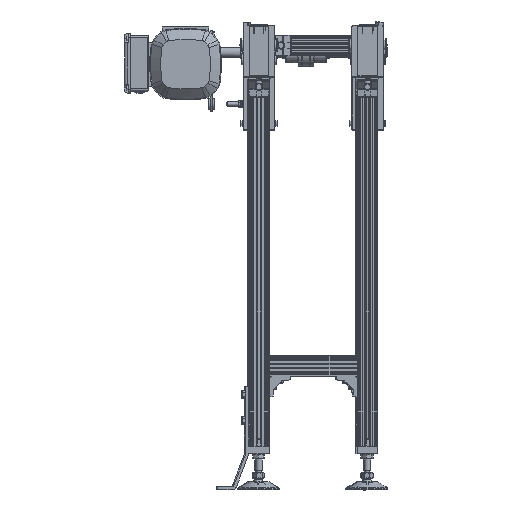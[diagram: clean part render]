
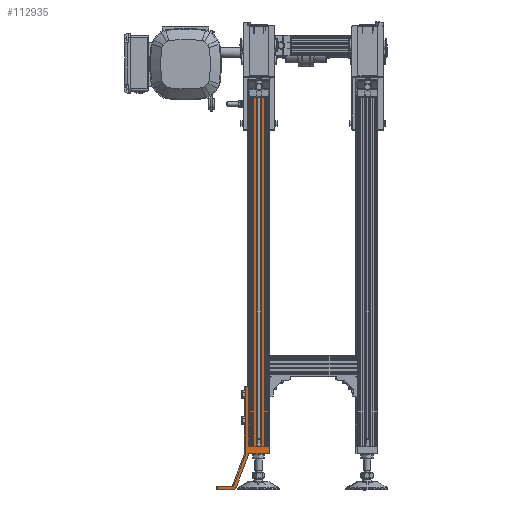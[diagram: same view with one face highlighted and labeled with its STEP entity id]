
A CAD part, left-side view. The second image highlights one B-rep face of the part: STEP entity #112935.
In plain terms, the highlighted planar face has unit normal (-1, 0, 0).
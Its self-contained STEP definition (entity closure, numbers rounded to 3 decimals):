
#5731=CIRCLE('',#120607,12.);
#5732=CIRCLE('',#120608,6.);
#5733=CIRCLE('',#120609,12.);
#5734=CIRCLE('',#120610,12.);
#10172=FACE_OUTER_BOUND('',#16446,.T.);
#16446=EDGE_LOOP('',(#86659,#86660,#86661,#86662,#86663,#86664,#86665,#86666,
#86667,#86668,#86669,#86670,#86671,#86672,#86673,#86674,#86675,#86676,#86677,
#86678,#86679,#86680,#86681,#86682));
#27230=LINE('',#176277,#38702);
#27397=LINE('',#176931,#38869);
#27398=LINE('',#176932,#38870);
#27422=LINE('',#177001,#38894);
#27423=LINE('',#177003,#38895);
#27424=LINE('',#177005,#38896);
#27425=LINE('',#177007,#38897);
#27426=LINE('',#177009,#38898);
#27427=LINE('',#177013,#38899);
#27428=LINE('',#177017,#38900);
#27429=LINE('',#177019,#38901);
#27430=LINE('',#177021,#38902);
#27431=LINE('',#177025,#38903);
#27432=LINE('',#177029,#38904);
#27433=LINE('',#177030,#38905);
#27434=LINE('',#177032,#38906);
#27435=LINE('',#177033,#38907);
#27436=LINE('',#177035,#38908);
#27437=LINE('',#177037,#38909);
#27438=LINE('',#177038,#38910);
#38702=VECTOR('',#141852,15.);
#38869=VECTOR('',#142233,13.45);
#38870=VECTOR('',#142234,13.45);
#38894=VECTOR('',#142312,675.);
#38895=VECTOR('',#142313,1.);
#38896=VECTOR('',#142314,115.);
#38897=VECTOR('',#142315,6.);
#38898=VECTOR('',#142316,128.703);
#38899=VECTOR('',#142319,62.015);
#38900=VECTOR('',#142322,25.951);
#38901=VECTOR('',#142323,6.);
#38902=VECTOR('',#142324,25.933);
#38903=VECTOR('',#142327,63.225);
#38904=VECTOR('',#142330,1.249);
#38905=VECTOR('',#142331,40.);
#38906=VECTOR('',#142332,1.);
#38907=VECTOR('',#142333,675.);
#38908=VECTOR('',#142334,675.);
#38909=VECTOR('',#142335,11.1);
#38910=VECTOR('',#142336,675.);
#49305=VERTEX_POINT('',#176274);
#49306=VERTEX_POINT('',#176276);
#49428=VERTEX_POINT('',#176714);
#49431=VERTEX_POINT('',#176719);
#49433=VERTEX_POINT('',#176725);
#49437=VERTEX_POINT('',#176734);
#49488=VERTEX_POINT('',#177000);
#49489=VERTEX_POINT('',#177002);
#49490=VERTEX_POINT('',#177004);
#49491=VERTEX_POINT('',#177006);
#49492=VERTEX_POINT('',#177008);
#49493=VERTEX_POINT('',#177010);
#49494=VERTEX_POINT('',#177012);
#49495=VERTEX_POINT('',#177014);
#49496=VERTEX_POINT('',#177016);
#49497=VERTEX_POINT('',#177018);
#49498=VERTEX_POINT('',#177020);
#49499=VERTEX_POINT('',#177022);
#49500=VERTEX_POINT('',#177024);
#49501=VERTEX_POINT('',#177026);
#49502=VERTEX_POINT('',#177028);
#49503=VERTEX_POINT('',#177031);
#49504=VERTEX_POINT('',#177034);
#49505=VERTEX_POINT('',#177036);
#62606=EDGE_CURVE('',#49305,#49306,#27230,.T.);
#62832=EDGE_CURVE('',#49428,#49433,#27397,.T.);
#62833=EDGE_CURVE('',#49437,#49431,#27398,.T.);
#62862=EDGE_CURVE('',#49488,#49433,#27422,.T.);
#62863=EDGE_CURVE('',#49488,#49489,#27423,.T.);
#62864=EDGE_CURVE('',#49490,#49489,#27424,.T.);
#62865=EDGE_CURVE('',#49491,#49490,#27425,.T.);
#62866=EDGE_CURVE('',#49492,#49491,#27426,.T.);
#62867=EDGE_CURVE('',#49493,#49492,#5731,.T.);
#62868=EDGE_CURVE('',#49494,#49493,#27427,.T.);
#62869=EDGE_CURVE('',#49495,#49494,#5732,.T.);
#62870=EDGE_CURVE('',#49496,#49495,#27428,.T.);
#62871=EDGE_CURVE('',#49497,#49496,#27429,.T.);
#62872=EDGE_CURVE('',#49498,#49497,#27430,.T.);
#62873=EDGE_CURVE('',#49499,#49498,#5733,.T.);
#62874=EDGE_CURVE('',#49500,#49499,#27431,.T.);
#62875=EDGE_CURVE('',#49501,#49500,#5734,.T.);
#62876=EDGE_CURVE('',#49501,#49502,#27432,.T.);
#62877=EDGE_CURVE('',#49502,#49306,#27433,.T.);
#62878=EDGE_CURVE('',#49305,#49503,#27434,.T.);
#62879=EDGE_CURVE('',#49503,#49437,#27435,.T.);
#62880=EDGE_CURVE('',#49504,#49431,#27436,.T.);
#62881=EDGE_CURVE('',#49504,#49505,#27437,.T.);
#62882=EDGE_CURVE('',#49505,#49428,#27438,.T.);
#86659=ORIENTED_EDGE('',*,*,#62832,.T.);
#86660=ORIENTED_EDGE('',*,*,#62862,.F.);
#86661=ORIENTED_EDGE('',*,*,#62863,.T.);
#86662=ORIENTED_EDGE('',*,*,#62864,.F.);
#86663=ORIENTED_EDGE('',*,*,#62865,.F.);
#86664=ORIENTED_EDGE('',*,*,#62866,.F.);
#86665=ORIENTED_EDGE('',*,*,#62867,.F.);
#86666=ORIENTED_EDGE('',*,*,#62868,.F.);
#86667=ORIENTED_EDGE('',*,*,#62869,.F.);
#86668=ORIENTED_EDGE('',*,*,#62870,.F.);
#86669=ORIENTED_EDGE('',*,*,#62871,.F.);
#86670=ORIENTED_EDGE('',*,*,#62872,.F.);
#86671=ORIENTED_EDGE('',*,*,#62873,.F.);
#86672=ORIENTED_EDGE('',*,*,#62874,.F.);
#86673=ORIENTED_EDGE('',*,*,#62875,.F.);
#86674=ORIENTED_EDGE('',*,*,#62876,.T.);
#86675=ORIENTED_EDGE('',*,*,#62877,.T.);
#86676=ORIENTED_EDGE('',*,*,#62606,.F.);
#86677=ORIENTED_EDGE('',*,*,#62878,.T.);
#86678=ORIENTED_EDGE('',*,*,#62879,.T.);
#86679=ORIENTED_EDGE('',*,*,#62833,.T.);
#86680=ORIENTED_EDGE('',*,*,#62880,.F.);
#86681=ORIENTED_EDGE('',*,*,#62881,.T.);
#86682=ORIENTED_EDGE('',*,*,#62882,.T.);
#102359=PLANE('',#120606);
#112935=ADVANCED_FACE('',(#10172),#102359,.T.);
#120606=AXIS2_PLACEMENT_3D('',#176999,#142310,#142311);
#120607=AXIS2_PLACEMENT_3D('',#177011,#142317,#142318);
#120608=AXIS2_PLACEMENT_3D('',#177015,#142320,#142321);
#120609=AXIS2_PLACEMENT_3D('',#177023,#142325,#142326);
#120610=AXIS2_PLACEMENT_3D('',#177027,#142328,#142329);
#141852=DIRECTION('',(0.,0.,-1.));
#142233=DIRECTION('',(0.,1.,0.));
#142234=DIRECTION('',(0.,1.,0.));
#142310=DIRECTION('center_axis',(-1.,0.,0.));
#142311=DIRECTION('ref_axis',(0.,-1.,0.));
#142312=DIRECTION('',(0.,0.,1.));
#142313=DIRECTION('',(0.,1.,0.));
#142314=DIRECTION('',(0.,0.,-1.));
#142315=DIRECTION('',(0.,-1.,0.));
#142316=DIRECTION('',(0.,0.,1.));
#142317=DIRECTION('center_axis',(-1.,0.,0.));
#142318=DIRECTION('ref_axis',(0.,1.,0.));
#142319=DIRECTION('',(0.,-0.353,0.936));
#142320=DIRECTION('center_axis',(-1.,0.,0.));
#142321=DIRECTION('ref_axis',(0.,0.977,0.214));
#142322=DIRECTION('',(0.,-1.,0.));
#142323=DIRECTION('',(0.,0.,1.));
#142324=DIRECTION('',(0.,1.,0.));
#142325=DIRECTION('center_axis',(1.,0.,0.));
#142326=DIRECTION('ref_axis',(0.,-0.977,
-0.212));
#142327=DIRECTION('',(0.,0.349,-0.937));
#142328=DIRECTION('center_axis',(1.,0.,0.));
#142329=DIRECTION('ref_axis',(0.,-1.,0.));
#142330=DIRECTION('',(0.,0.,-1.));
#142331=DIRECTION('',(0.,-1.,0.));
#142332=DIRECTION('',(0.,1.,0.));
#142333=DIRECTION('',(0.,0.,1.));
#142334=DIRECTION('',(0.,0.,1.));
#142335=DIRECTION('',(0.,1.,0.));
#142336=DIRECTION('',(0.,0.,1.));
#176274=CARTESIAN_POINT('',(203.,85.,-715.));
#176276=CARTESIAN_POINT('',(203.,85.,-730.));
#176277=CARTESIAN_POINT('',(203.,85.,-715.));
#176714=CARTESIAN_POINT('',(203.,110.55,-40.));
#176719=CARTESIAN_POINT('',(203.,99.45,-40.));
#176725=CARTESIAN_POINT('',(203.,124.,-40.));
#176734=CARTESIAN_POINT('',(203.,86.,-40.));
#176931=CARTESIAN_POINT('',(203.,114.5,-40.));
#176932=CARTESIAN_POINT('',(203.,114.5,-40.));
#176999=CARTESIAN_POINT('Origin',(203.,124.,-715.));
#177000=CARTESIAN_POINT('',(203.,124.,-715.));
#177001=CARTESIAN_POINT('',(203.,124.,-715.));
#177002=CARTESIAN_POINT('',(203.,125.,-715.));
#177003=CARTESIAN_POINT('',(203.,85.,-715.));
#177004=CARTESIAN_POINT('',(203.,125.,-600.));
#177005=CARTESIAN_POINT('',(203.,125.,-600.));
#177006=CARTESIAN_POINT('',(203.,131.,-600.));
#177007=CARTESIAN_POINT('',(203.,131.,-600.));
#177008=CARTESIAN_POINT('',(203.,131.,-728.703));
#177009=CARTESIAN_POINT('',(203.,131.,-728.703));
#177010=CARTESIAN_POINT('',(203.,131.277,-731.267));
#177011=CARTESIAN_POINT('Origin',(203.,143.,-728.703));
#177012=CARTESIAN_POINT('',(203.,153.188,-789.282));
#177013=CARTESIAN_POINT('',(203.,153.188,-789.282));
#177014=CARTESIAN_POINT('',(203.,159.049,-794.));
#177015=CARTESIAN_POINT('Origin',(203.,159.049,-788.));
#177016=CARTESIAN_POINT('',(203.,185.,-794.));
#177017=CARTESIAN_POINT('',(203.,185.,-794.));
#177018=CARTESIAN_POINT('',(203.,185.,-800.));
#177019=CARTESIAN_POINT('',(203.,185.,-800.));
#177020=CARTESIAN_POINT('',(203.,159.067,-800.));
#177021=CARTESIAN_POINT('',(203.,159.067,-800.));
#177022=CARTESIAN_POINT('',(203.,147.34,-790.543));
#177023=CARTESIAN_POINT('Origin',(203.,159.067,-788.));
#177024=CARTESIAN_POINT('',(203.,125.273,-731.294));
#177025=CARTESIAN_POINT('',(203.,125.273,-731.294));
#177026=CARTESIAN_POINT('',(203.,125.,-728.751));
#177027=CARTESIAN_POINT('Origin',(203.,137.,-728.751));
#177028=CARTESIAN_POINT('',(203.,125.,-730.));
#177029=CARTESIAN_POINT('',(203.,125.,-715.));
#177030=CARTESIAN_POINT('',(203.,85.,-730.));
#177031=CARTESIAN_POINT('',(203.,86.,-715.));
#177032=CARTESIAN_POINT('',(203.,85.,-715.));
#177033=CARTESIAN_POINT('',(203.,86.,-715.));
#177034=CARTESIAN_POINT('',(203.,99.45,-715.));
#177035=CARTESIAN_POINT('',(203.,99.45,-715.));
#177036=CARTESIAN_POINT('',(203.,110.55,-715.));
#177037=CARTESIAN_POINT('',(203.,85.,-715.));
#177038=CARTESIAN_POINT('',(203.,110.55,-715.));
